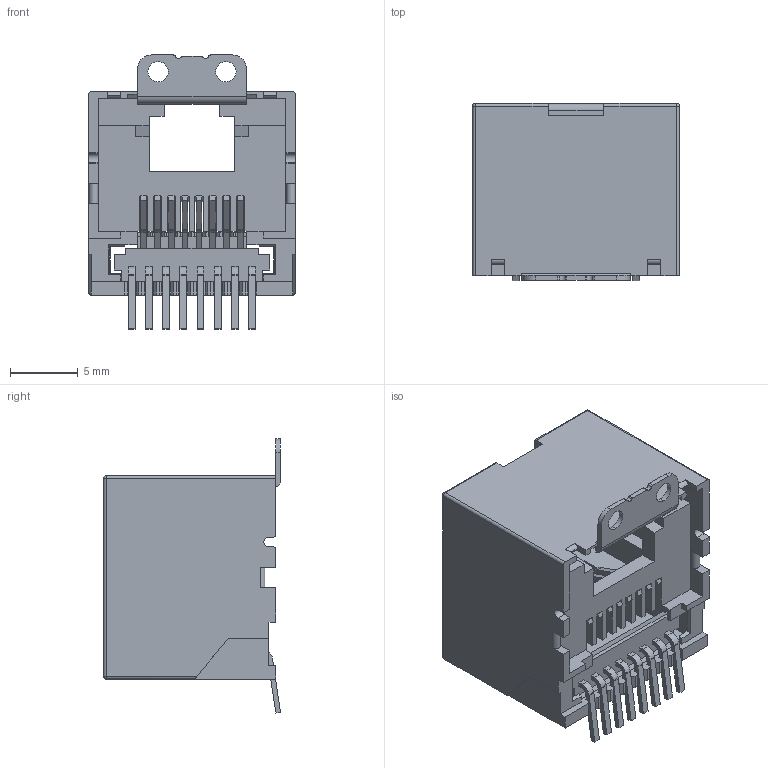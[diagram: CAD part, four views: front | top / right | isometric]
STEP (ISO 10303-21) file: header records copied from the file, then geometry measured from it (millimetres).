
FILE_DESCRIPTION((''),'2;1');
FILE_NAME('52F','2023-10-19T10:08:32',('Administrator'),(''),'CREO PARAMETRIC BY PTC INC, 2019010','CREO PARAMETRIC BY PTC INC, 2019010','');
FILE_SCHEMA(('CONFIG_CONTROL_DESIGN'));
Length unit declared in the file: millimetre
Products named in the file (1): 52F
Bounding box: 15.25 x 13.05 x 20.2 mm (x, y, z)
Volume: 919.5 mm3; surface area: 2526.6 mm2
Topology: 1 solids, 2 shells, 537 faces, 1656 edges, 1102 vertices
Faces by surface type: plane 434, cylinder 99, sphere 4
Entity records: 18448 total; most frequent: CARTESIAN_POINT 3392, ORIENTED_EDGE 3302, DIRECTION 2926, EDGE_CURVE 1652, VECTOR 1422, LINE 1422, VERTEX_POINT 1102, AXIS2_PLACEMENT_3D 752
